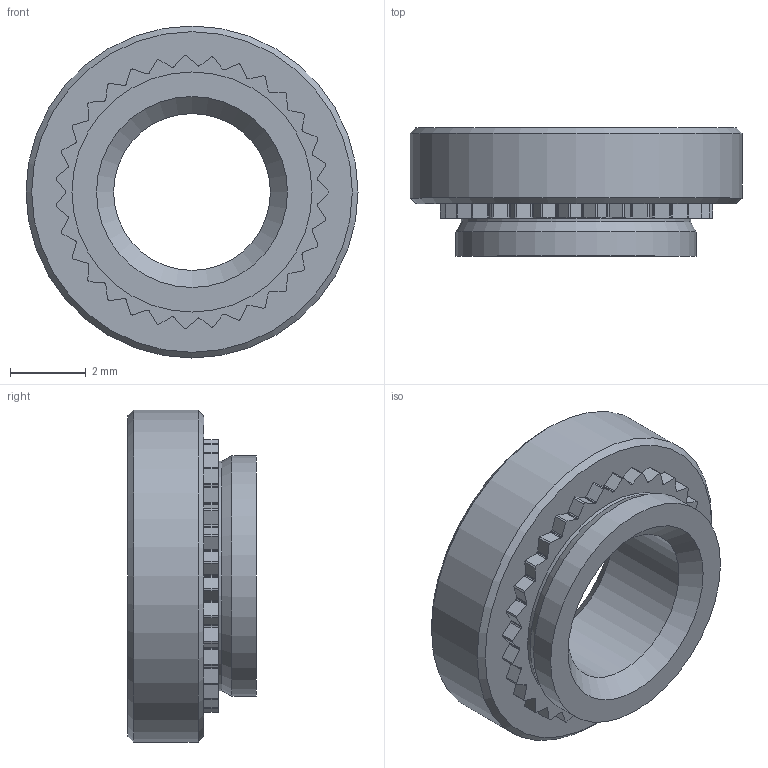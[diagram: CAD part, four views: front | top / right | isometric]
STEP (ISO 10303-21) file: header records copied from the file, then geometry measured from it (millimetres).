
FILE_DESCRIPTION(/* description */ (''),/* implementation_level */ '2;1');
FILE_NAME(/* name */ 'C:\Users\keval.kumar\Desktop\Fastit\Clinch nut\M5\Clinch Nut_M5_2.stp',/* time_stamp */ '2024-03-14T09:38:25+05:00',/* author */ ('keval.kumar'),/* organization */ (''),/* preprocessor_version */ 'ST-DEVELOPER v18.1',/* originating_system */ 'Autodesk Inventor 2022',/* authorisation */ '');
FILE_SCHEMA (('AUTOMOTIVE_DESIGN { 1 0 10303 214 3 1 1 }'));
Length unit declared in the file: millimetre
Products named in the file (1): Clinch Nut_M5_2
Bounding box: 8.75 x 3.38 x 8.75 mm (x, y, z)
Volume: 116.6 mm3; surface area: 214.9 mm2
Topology: 1 solids, 1 shells, 199 faces, 582 edges, 387 vertices
Faces by surface type: cylinder 128, plane 66, cone 5
Full cylindrical faces by diameter (mm): 4.134 x1, 6.05 x1, 6.33 x1, 8.75 x1
Entity records: 6762 total; most frequent: DIRECTION 1245, CARTESIAN_POINT 1169, ORIENTED_EDGE 1164, EDGE_CURVE 582, AXIS2_PLACEMENT_3D 463, VERTEX_POINT 387, LINE 319, VECTOR 319
